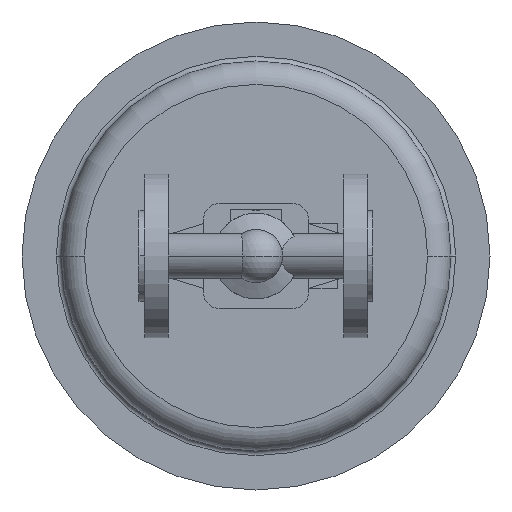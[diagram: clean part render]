
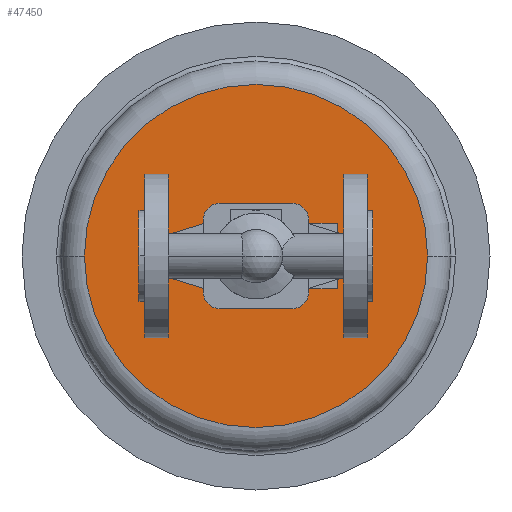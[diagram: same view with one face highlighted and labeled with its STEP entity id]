
A CAD part, front view. The second image highlights one B-rep face of the part: STEP entity #47450.
In plain terms, the highlighted planar face has unit normal (0, -1, 0).
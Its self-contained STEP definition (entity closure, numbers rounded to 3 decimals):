
#33700=CARTESIAN_POINT('',(185.,348.,0.));
#33710=VERTEX_POINT('',#33700);
#33800=CARTESIAN_POINT('',(-35.,348.,0.));
#33810=VERTEX_POINT('',#33800);
#33840=CARTESIAN_POINT('',(75.,348.,0.));
#33850=DIRECTION('',(0.,1.,0.));
#33860=DIRECTION('',(1.,0.,0.));
#33870=AXIS2_PLACEMENT_3D('',#33840,#33850,#33860);
#33880=CIRCLE('',#33870,110.);
#33890=CARTESIAN_POINT('',(75.,348.,-110.));
#33900=VERTEX_POINT('',#33890);
#33910=EDGE_CURVE('',#33900,#33810,#33880,.T.);
#33930=EDGE_CURVE('',#33710,#33900,#33880,.T.);
#34510=CARTESIAN_POINT('',(140.,348.,0.));
#34520=VERTEX_POINT('',#34510);
#34550=CARTESIAN_POINT('',(125.,348.,0.));
#34560=DIRECTION('',(0.,1.,0.));
#34570=DIRECTION('',(1.,0.,0.));
#34580=AXIS2_PLACEMENT_3D('',#34550,#34560,#34570);
#34590=CIRCLE('',#34580,15.);
#34600=CARTESIAN_POINT('',(110.,348.,0.));
#34610=VERTEX_POINT('',#34600);
#34620=EDGE_CURVE('',#34520,#34610,#34590,.T.);
#34930=CARTESIAN_POINT('',(40.,348.,0.));
#34940=VERTEX_POINT('',#34930);
#34970=CARTESIAN_POINT('',(25.,348.,0.));
#34980=DIRECTION('',(0.,1.,0.));
#34990=DIRECTION('',(1.,0.,0.));
#35000=AXIS2_PLACEMENT_3D('',#34970,#34980,#34990);
#35010=CIRCLE('',#35000,15.);
#35020=CARTESIAN_POINT('',(10.,348.,0.));
#35030=VERTEX_POINT('',#35020);
#35040=EDGE_CURVE('',#34940,#35030,#35010,.T.);
#35330=CARTESIAN_POINT('',(56.55,348.,0.));
#35340=VERTEX_POINT('',#35330);
#35560=CARTESIAN_POINT('',(93.45,348.,0.));
#35570=VERTEX_POINT('',#35560);
#35600=CARTESIAN_POINT('',(75.,348.,0.));
#35610=DIRECTION('',(0.,1.,0.));
#35620=DIRECTION('',(1.,0.,0.));
#35630=AXIS2_PLACEMENT_3D('',#35600,#35610,#35620);
#35640=CIRCLE('',#35630,18.45);
#35650=EDGE_CURVE('',#35570,#35340,#35640,.T.);
#47190=CARTESIAN_POINT('',(130.,348.,0.));
#47200=DIRECTION('',(0.,-1.,0.));
#47210=DIRECTION('',(-1.,0.,0.));
#47220=AXIS2_PLACEMENT_3D('',#47190,#47200,#47210);
#47230=PLANE('',#47220);
#47240=EDGE_CURVE('',#35340,#35570,#35640,.T.);
#47250=ORIENTED_EDGE('',*,*,#47240,.T.);
#47260=ORIENTED_EDGE('',*,*,#35650,.T.);
#47270=EDGE_LOOP('',(#47260,#47250));
#47280=FACE_BOUND('',#47270,.T.);
#47290=EDGE_CURVE('',#35030,#34940,#35010,.T.);
#47300=ORIENTED_EDGE('',*,*,#47290,.T.);
#47310=ORIENTED_EDGE('',*,*,#35040,.T.);
#47320=EDGE_LOOP('',(#47310,#47300));
#47330=FACE_BOUND('',#47320,.T.);
#47340=EDGE_CURVE('',#34610,#34520,#34590,.T.);
#47350=ORIENTED_EDGE('',*,*,#47340,.T.);
#47360=ORIENTED_EDGE('',*,*,#34620,.T.);
#47370=EDGE_LOOP('',(#47360,#47350));
#47380=FACE_BOUND('',#47370,.T.);
#47390=ORIENTED_EDGE('',*,*,#33910,.F.);
#47400=EDGE_CURVE('',#33810,#33710,#33880,.T.);
#47410=ORIENTED_EDGE('',*,*,#47400,.F.);
#47420=ORIENTED_EDGE('',*,*,#33930,.F.);
#47430=EDGE_LOOP('',(#47420,#47410,#47390));
#47440=FACE_OUTER_BOUND('',#47430,.T.);
#47450=ADVANCED_FACE('',(#47280,#47330,#47380,#47440),#47230,.T.);
